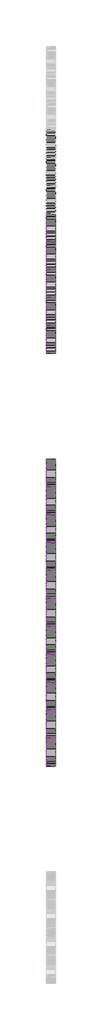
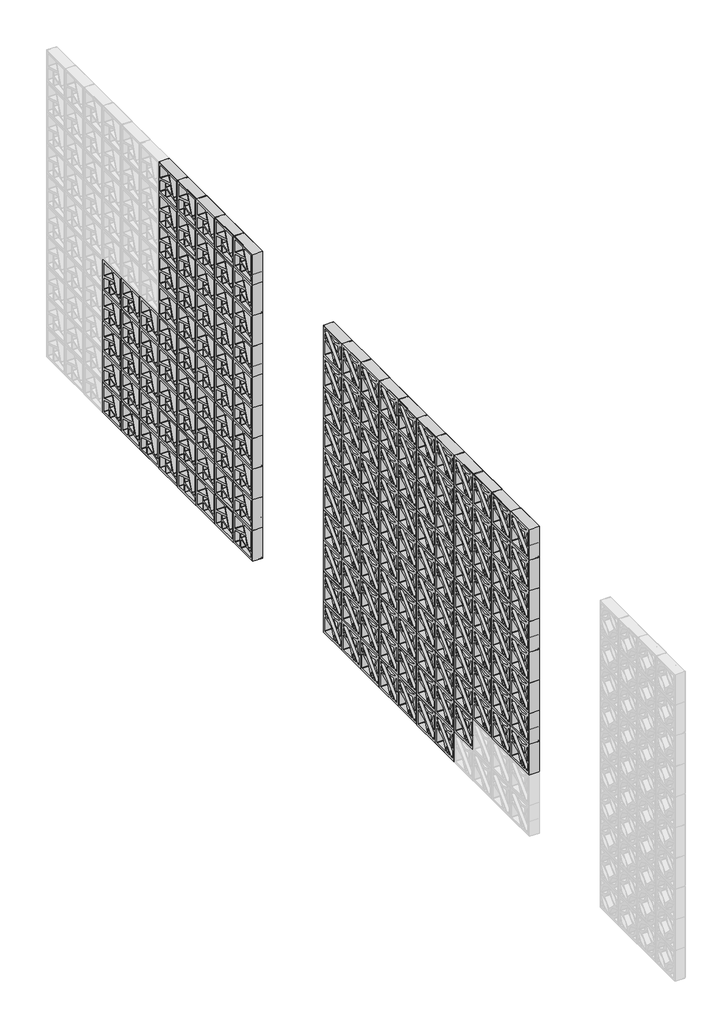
# One storey, part 3 of 8: 168 plates.
"""IFC4 building model written with IfcOpenShell, lengths in millimetres."""

from ifc_helpers import new_model, si_unit, origin, place, context, project, spatial, transform, mapped, element, save
from components import plate_92f93356, plate_8e8c4e3e

model = new_model("IFC4")

# Units and contexts
model_context = context("Model", 3, world=origin())
ifc_project = project(units=[si_unit("LENGTHUNIT", "METRE", prefix="MILLI")], contexts=[model_context])

# Site, building, storey
site = spatial("IfcSite", under=ifc_project)
building = spatial("IfcBuilding", under=site)
storey = spatial("IfcBuildingStorey", under=building, Name="PORTOBELLO - SHOWROOM", Elevation=0.0)

# Plates
placement = place(None, origin())
plate_shape = plate_92f93356(model_context)
element("IfcPlate", 1, ObjectType="PORTOBELLO - STUDIO CRAFT 5 26X26 (PAINEL CORTINA) : STUDIO CRAFT 5", at=placement, inside=storey, context=model_context, shape_type="MappedRepresentation", body=[
    mapped(plate_shape, transform((227956.3824585, 3070.8700164, 0.0), x_axis=(0.0, 1.0, 0.0), y_axis=(-1.0, 0.0, 0.0), z_axis=(0.0, 0.0, 1.0))),
])
element("IfcPlate", 2, ObjectType="PORTOBELLO - STUDIO CRAFT 5 26X26 (PAINEL CORTINA) : STUDIO CRAFT 5", at=placement, inside=storey, context=model_context, shape_type="MappedRepresentation", body=[
    mapped(plate_shape, transform((227956.3824585, 3334.8700164, 0.0), x_axis=(0.0, 1.0, 0.0), y_axis=(-1.0, 0.0, 0.0), z_axis=(0.0, 0.0, 1.0))),
])
element("IfcPlate", 3, ObjectType="PORTOBELLO - STUDIO CRAFT 5 26X26 (PAINEL CORTINA) : STUDIO CRAFT 5", at=placement, inside=storey, context=model_context, shape_type="MappedRepresentation", body=[
    mapped(plate_shape, transform((227956.3824585, 3598.8700164, 0.0), x_axis=(0.0, 1.0, 0.0), y_axis=(-1.0, 0.0, 0.0), z_axis=(0.0, 0.0, 1.0))),
])
element("IfcPlate", 4, ObjectType="PORTOBELLO - STUDIO CRAFT 5 26X26 (PAINEL CORTINA) : STUDIO CRAFT 5", at=placement, inside=storey, context=model_context, shape_type="MappedRepresentation", body=[
    mapped(plate_shape, transform((227956.3824585, 3862.8700164, 0.0), x_axis=(0.0, 1.0, 0.0), y_axis=(-1.0, 0.0, 0.0), z_axis=(0.0, 0.0, 1.0))),
])
element("IfcPlate", 5, ObjectType="PORTOBELLO - STUDIO CRAFT 5 26X26 (PAINEL CORTINA) : STUDIO CRAFT 5", at=placement, inside=storey, context=model_context, shape_type="MappedRepresentation", body=[
    mapped(plate_shape, transform((227956.3824585, 4126.8700164, 0.0), x_axis=(0.0, 1.0, 0.0), y_axis=(-1.0, 0.0, 0.0), z_axis=(0.0, 0.0, 1.0))),
])
element("IfcPlate", 6, ObjectType="PORTOBELLO - STUDIO CRAFT 5 26X26 (PAINEL CORTINA) : STUDIO CRAFT 5", at=placement, inside=storey, context=model_context, shape_type="MappedRepresentation", body=[
    mapped(plate_shape, transform((227956.3824585, 4390.8700164, 0.0), x_axis=(0.0, 1.0, 0.0), y_axis=(-1.0, 0.0, 0.0), z_axis=(0.0, 0.0, 1.0))),
])
element("IfcPlate", 7, ObjectType="PORTOBELLO - STUDIO CRAFT 5 26X26 (PAINEL CORTINA) : STUDIO CRAFT 5", at=placement, inside=storey, context=model_context, shape_type="MappedRepresentation", body=[
    mapped(plate_shape, transform((227956.3824585, 4654.8700164, 0.0), x_axis=(0.0, 1.0, 0.0), y_axis=(-1.0, 0.0, 0.0), z_axis=(0.0, 0.0, 1.0))),
])
element("IfcPlate", 8, ObjectType="PORTOBELLO - STUDIO CRAFT 5 26X26 (PAINEL CORTINA) : STUDIO CRAFT 5", at=placement, inside=storey, context=model_context, shape_type="MappedRepresentation", body=[
    mapped(plate_shape, transform((227956.3824585, 2806.8700164, 264.0), x_axis=(0.0, 1.0, 0.0), y_axis=(-1.0, 0.0, 0.0), z_axis=(0.0, 0.0, 1.0))),
])
element("IfcPlate", 9, ObjectType="PORTOBELLO - STUDIO CRAFT 5 26X26 (PAINEL CORTINA) : STUDIO CRAFT 5", at=placement, inside=storey, context=model_context, shape_type="MappedRepresentation", body=[
    mapped(plate_shape, transform((227956.3824585, 3070.8700164, 264.0), x_axis=(0.0, 1.0, 0.0), y_axis=(-1.0, 0.0, 0.0), z_axis=(0.0, 0.0, 1.0))),
])
element("IfcPlate", 10, ObjectType="PORTOBELLO - STUDIO CRAFT 5 26X26 (PAINEL CORTINA) : STUDIO CRAFT 5", at=placement, inside=storey, context=model_context, shape_type="MappedRepresentation", body=[
    mapped(plate_shape, transform((227956.3824585, 3334.8700164, 264.0), x_axis=(0.0, 1.0, 0.0), y_axis=(-1.0, 0.0, 0.0), z_axis=(0.0, 0.0, 1.0))),
])
element("IfcPlate", 11, ObjectType="PORTOBELLO - STUDIO CRAFT 5 26X26 (PAINEL CORTINA) : STUDIO CRAFT 5", at=placement, inside=storey, context=model_context, shape_type="MappedRepresentation", body=[
    mapped(plate_shape, transform((227956.3824585, 3598.8700164, 264.0), x_axis=(0.0, 1.0, 0.0), y_axis=(-1.0, 0.0, 0.0), z_axis=(0.0, 0.0, 1.0))),
])
element("IfcPlate", 12, ObjectType="PORTOBELLO - STUDIO CRAFT 5 26X26 (PAINEL CORTINA) : STUDIO CRAFT 5", at=placement, inside=storey, context=model_context, shape_type="MappedRepresentation", body=[
    mapped(plate_shape, transform((227956.3824585, 3862.8700164, 264.0), x_axis=(0.0, 1.0, 0.0), y_axis=(-1.0, 0.0, 0.0), z_axis=(0.0, 0.0, 1.0))),
])
element("IfcPlate", 13, ObjectType="PORTOBELLO - STUDIO CRAFT 5 26X26 (PAINEL CORTINA) : STUDIO CRAFT 5", at=placement, inside=storey, context=model_context, shape_type="MappedRepresentation", body=[
    mapped(plate_shape, transform((227956.3824585, 4126.8700164, 264.0), x_axis=(0.0, 1.0, 0.0), y_axis=(-1.0, 0.0, 0.0), z_axis=(0.0, 0.0, 1.0))),
])
element("IfcPlate", 14, ObjectType="PORTOBELLO - STUDIO CRAFT 5 26X26 (PAINEL CORTINA) : STUDIO CRAFT 5", at=placement, inside=storey, context=model_context, shape_type="MappedRepresentation", body=[
    mapped(plate_shape, transform((227956.3824585, 4390.8700164, 264.0), x_axis=(0.0, 1.0, 0.0), y_axis=(-1.0, 0.0, 0.0), z_axis=(0.0, 0.0, 1.0))),
])
element("IfcPlate", 15, ObjectType="PORTOBELLO - STUDIO CRAFT 5 26X26 (PAINEL CORTINA) : STUDIO CRAFT 5", at=placement, inside=storey, context=model_context, shape_type="MappedRepresentation", body=[
    mapped(plate_shape, transform((227956.3824585, 4654.8700164, 264.0), x_axis=(0.0, 1.0, 0.0), y_axis=(-1.0, 0.0, 0.0), z_axis=(0.0, 0.0, 1.0))),
])
element("IfcPlate", 16, ObjectType="PORTOBELLO - STUDIO CRAFT 5 26X26 (PAINEL CORTINA) : STUDIO CRAFT 5", at=placement, inside=storey, context=model_context, shape_type="MappedRepresentation", body=[
    mapped(plate_shape, transform((227956.3824585, 2014.8700163, 528.0), x_axis=(0.0, 1.0, 0.0), y_axis=(-1.0, 0.0, 0.0), z_axis=(0.0, 0.0, 1.0))),
])
element("IfcPlate", 17, ObjectType="PORTOBELLO - STUDIO CRAFT 5 26X26 (PAINEL CORTINA) : STUDIO CRAFT 5", at=placement, inside=storey, context=model_context, shape_type="MappedRepresentation", body=[
    mapped(plate_shape, transform((227956.3824585, 2278.8700164, 528.0), x_axis=(0.0, 1.0, 0.0), y_axis=(-1.0, 0.0, 0.0), z_axis=(0.0, 0.0, 1.0))),
])
element("IfcPlate", 18, ObjectType="PORTOBELLO - STUDIO CRAFT 5 26X26 (PAINEL CORTINA) : STUDIO CRAFT 5", at=placement, inside=storey, context=model_context, shape_type="MappedRepresentation", body=[
    mapped(plate_shape, transform((227956.3824585, 2542.8700164, 528.0), x_axis=(0.0, 1.0, 0.0), y_axis=(-1.0, 0.0, 0.0), z_axis=(0.0, 0.0, 1.0))),
])
element("IfcPlate", 19, ObjectType="PORTOBELLO - STUDIO CRAFT 5 26X26 (PAINEL CORTINA) : STUDIO CRAFT 5", at=placement, inside=storey, context=model_context, shape_type="MappedRepresentation", body=[
    mapped(plate_shape, transform((227956.3824585, 2806.8700164, 528.0), x_axis=(0.0, 1.0, 0.0), y_axis=(-1.0, 0.0, 0.0), z_axis=(0.0, 0.0, 1.0))),
])
element("IfcPlate", 20, ObjectType="PORTOBELLO - STUDIO CRAFT 5 26X26 (PAINEL CORTINA) : STUDIO CRAFT 5", at=placement, inside=storey, context=model_context, shape_type="MappedRepresentation", body=[
    mapped(plate_shape, transform((227956.3824585, 3070.8700164, 528.0), x_axis=(0.0, 1.0, 0.0), y_axis=(-1.0, 0.0, 0.0), z_axis=(0.0, 0.0, 1.0))),
])
element("IfcPlate", 21, ObjectType="PORTOBELLO - STUDIO CRAFT 5 26X26 (PAINEL CORTINA) : STUDIO CRAFT 5", at=placement, inside=storey, context=model_context, shape_type="MappedRepresentation", body=[
    mapped(plate_shape, transform((227956.3824585, 3334.8700164, 528.0), x_axis=(0.0, 1.0, 0.0), y_axis=(-1.0, 0.0, 0.0), z_axis=(0.0, 0.0, 1.0))),
])
element("IfcPlate", 22, ObjectType="PORTOBELLO - STUDIO CRAFT 5 26X26 (PAINEL CORTINA) : STUDIO CRAFT 5", at=placement, inside=storey, context=model_context, shape_type="MappedRepresentation", body=[
    mapped(plate_shape, transform((227956.3824585, 3598.8700164, 528.0), x_axis=(0.0, 1.0, 0.0), y_axis=(-1.0, 0.0, 0.0), z_axis=(0.0, 0.0, 1.0))),
])
element("IfcPlate", 23, ObjectType="PORTOBELLO - STUDIO CRAFT 5 26X26 (PAINEL CORTINA) : STUDIO CRAFT 5", at=placement, inside=storey, context=model_context, shape_type="MappedRepresentation", body=[
    mapped(plate_shape, transform((227956.3824585, 3862.8700164, 528.0), x_axis=(0.0, 1.0, 0.0), y_axis=(-1.0, 0.0, 0.0), z_axis=(0.0, 0.0, 1.0))),
])
element("IfcPlate", 24, ObjectType="PORTOBELLO - STUDIO CRAFT 5 26X26 (PAINEL CORTINA) : STUDIO CRAFT 5", at=placement, inside=storey, context=model_context, shape_type="MappedRepresentation", body=[
    mapped(plate_shape, transform((227956.3824585, 4126.8700164, 528.0), x_axis=(0.0, 1.0, 0.0), y_axis=(-1.0, 0.0, 0.0), z_axis=(0.0, 0.0, 1.0))),
])
element("IfcPlate", 25, ObjectType="PORTOBELLO - STUDIO CRAFT 5 26X26 (PAINEL CORTINA) : STUDIO CRAFT 5", at=placement, inside=storey, context=model_context, shape_type="MappedRepresentation", body=[
    mapped(plate_shape, transform((227956.3824585, 4390.8700164, 528.0), x_axis=(0.0, 1.0, 0.0), y_axis=(-1.0, 0.0, 0.0), z_axis=(0.0, 0.0, 1.0))),
])
element("IfcPlate", 26, ObjectType="PORTOBELLO - STUDIO CRAFT 5 26X26 (PAINEL CORTINA) : STUDIO CRAFT 5", at=placement, inside=storey, context=model_context, shape_type="MappedRepresentation", body=[
    mapped(plate_shape, transform((227956.3824585, 4654.8700164, 528.0), x_axis=(0.0, 1.0, 0.0), y_axis=(-1.0, 0.0, 0.0), z_axis=(0.0, 0.0, 1.0))),
])
element("IfcPlate", 27, ObjectType="PORTOBELLO - STUDIO CRAFT 5 26X26 (PAINEL CORTINA) : STUDIO CRAFT 5", at=placement, inside=storey, context=model_context, shape_type="MappedRepresentation", body=[
    mapped(plate_shape, transform((227956.3824585, 2014.8700163, 792.0), x_axis=(0.0, 1.0, 0.0), y_axis=(-1.0, 0.0, 0.0), z_axis=(0.0, 0.0, 1.0))),
])
element("IfcPlate", 28, ObjectType="PORTOBELLO - STUDIO CRAFT 5 26X26 (PAINEL CORTINA) : STUDIO CRAFT 5", at=placement, inside=storey, context=model_context, shape_type="MappedRepresentation", body=[
    mapped(plate_shape, transform((227956.3824585, 2278.8700164, 792.0), x_axis=(0.0, 1.0, 0.0), y_axis=(-1.0, 0.0, 0.0), z_axis=(0.0, 0.0, 1.0))),
])
element("IfcPlate", 29, ObjectType="PORTOBELLO - STUDIO CRAFT 5 26X26 (PAINEL CORTINA) : STUDIO CRAFT 5", at=placement, inside=storey, context=model_context, shape_type="MappedRepresentation", body=[
    mapped(plate_shape, transform((227956.3824585, 2542.8700164, 792.0), x_axis=(0.0, 1.0, 0.0), y_axis=(-1.0, 0.0, 0.0), z_axis=(0.0, 0.0, 1.0))),
])
element("IfcPlate", 30, ObjectType="PORTOBELLO - STUDIO CRAFT 5 26X26 (PAINEL CORTINA) : STUDIO CRAFT 5", at=placement, inside=storey, context=model_context, shape_type="MappedRepresentation", body=[
    mapped(plate_shape, transform((227956.3824585, 2806.8700164, 792.0), x_axis=(0.0, 1.0, 0.0), y_axis=(-1.0, 0.0, 0.0), z_axis=(0.0, 0.0, 1.0))),
])
element("IfcPlate", 31, ObjectType="PORTOBELLO - STUDIO CRAFT 5 26X26 (PAINEL CORTINA) : STUDIO CRAFT 5", at=placement, inside=storey, context=model_context, shape_type="MappedRepresentation", body=[
    mapped(plate_shape, transform((227956.3824585, 3070.8700164, 792.0), x_axis=(0.0, 1.0, 0.0), y_axis=(-1.0, 0.0, 0.0), z_axis=(0.0, 0.0, 1.0))),
])
element("IfcPlate", 32, ObjectType="PORTOBELLO - STUDIO CRAFT 5 26X26 (PAINEL CORTINA) : STUDIO CRAFT 5", at=placement, inside=storey, context=model_context, shape_type="MappedRepresentation", body=[
    mapped(plate_shape, transform((227956.3824585, 3334.8700164, 792.0), x_axis=(0.0, 1.0, 0.0), y_axis=(-1.0, 0.0, 0.0), z_axis=(0.0, 0.0, 1.0))),
])
element("IfcPlate", 33, ObjectType="PORTOBELLO - STUDIO CRAFT 5 26X26 (PAINEL CORTINA) : STUDIO CRAFT 5", at=placement, inside=storey, context=model_context, shape_type="MappedRepresentation", body=[
    mapped(plate_shape, transform((227956.3824585, 3598.8700164, 792.0), x_axis=(0.0, 1.0, 0.0), y_axis=(-1.0, 0.0, 0.0), z_axis=(0.0, 0.0, 1.0))),
])
element("IfcPlate", 34, ObjectType="PORTOBELLO - STUDIO CRAFT 5 26X26 (PAINEL CORTINA) : STUDIO CRAFT 5", at=placement, inside=storey, context=model_context, shape_type="MappedRepresentation", body=[
    mapped(plate_shape, transform((227956.3824585, 3862.8700164, 792.0), x_axis=(0.0, 1.0, 0.0), y_axis=(-1.0, 0.0, 0.0), z_axis=(0.0, 0.0, 1.0))),
])
element("IfcPlate", 35, ObjectType="PORTOBELLO - STUDIO CRAFT 5 26X26 (PAINEL CORTINA) : STUDIO CRAFT 5", at=placement, inside=storey, context=model_context, shape_type="MappedRepresentation", body=[
    mapped(plate_shape, transform((227956.3824585, 4126.8700164, 792.0), x_axis=(0.0, 1.0, 0.0), y_axis=(-1.0, 0.0, 0.0), z_axis=(0.0, 0.0, 1.0))),
])
element("IfcPlate", 36, ObjectType="PORTOBELLO - STUDIO CRAFT 5 26X26 (PAINEL CORTINA) : STUDIO CRAFT 5", at=placement, inside=storey, context=model_context, shape_type="MappedRepresentation", body=[
    mapped(plate_shape, transform((227956.3824585, 4390.8700164, 792.0), x_axis=(0.0, 1.0, 0.0), y_axis=(-1.0, 0.0, 0.0), z_axis=(0.0, 0.0, 1.0))),
])
element("IfcPlate", 37, ObjectType="PORTOBELLO - STUDIO CRAFT 5 26X26 (PAINEL CORTINA) : STUDIO CRAFT 5", at=placement, inside=storey, context=model_context, shape_type="MappedRepresentation", body=[
    mapped(plate_shape, transform((227956.3824585, 4654.8700164, 792.0), x_axis=(0.0, 1.0, 0.0), y_axis=(-1.0, 0.0, 0.0), z_axis=(0.0, 0.0, 1.0))),
])
element("IfcPlate", 38, ObjectType="PORTOBELLO - STUDIO CRAFT 5 26X26 (PAINEL CORTINA) : STUDIO CRAFT 5", at=placement, inside=storey, context=model_context, shape_type="MappedRepresentation", body=[
    mapped(plate_shape, transform((227956.3824585, 2014.8700163, 1056.0), x_axis=(0.0, 1.0, 0.0), y_axis=(-1.0, 0.0, 0.0), z_axis=(0.0, 0.0, 1.0))),
])
element("IfcPlate", 39, ObjectType="PORTOBELLO - STUDIO CRAFT 5 26X26 (PAINEL CORTINA) : STUDIO CRAFT 5", at=placement, inside=storey, context=model_context, shape_type="MappedRepresentation", body=[
    mapped(plate_shape, transform((227956.3824585, 2278.8700164, 1056.0), x_axis=(0.0, 1.0, 0.0), y_axis=(-1.0, 0.0, 0.0), z_axis=(0.0, 0.0, 1.0))),
])
element("IfcPlate", 40, ObjectType="PORTOBELLO - STUDIO CRAFT 5 26X26 (PAINEL CORTINA) : STUDIO CRAFT 5", at=placement, inside=storey, context=model_context, shape_type="MappedRepresentation", body=[
    mapped(plate_shape, transform((227956.3824585, 2542.8700164, 1056.0), x_axis=(0.0, 1.0, 0.0), y_axis=(-1.0, 0.0, 0.0), z_axis=(0.0, 0.0, 1.0))),
])
element("IfcPlate", 41, ObjectType="PORTOBELLO - STUDIO CRAFT 5 26X26 (PAINEL CORTINA) : STUDIO CRAFT 5", at=placement, inside=storey, context=model_context, shape_type="MappedRepresentation", body=[
    mapped(plate_shape, transform((227956.3824585, 2806.8700164, 1056.0), x_axis=(0.0, 1.0, 0.0), y_axis=(-1.0, 0.0, 0.0), z_axis=(0.0, 0.0, 1.0))),
])
element("IfcPlate", 42, ObjectType="PORTOBELLO - STUDIO CRAFT 5 26X26 (PAINEL CORTINA) : STUDIO CRAFT 5", at=placement, inside=storey, context=model_context, shape_type="MappedRepresentation", body=[
    mapped(plate_shape, transform((227956.3824585, 3070.8700164, 1056.0), x_axis=(0.0, 1.0, 0.0), y_axis=(-1.0, 0.0, 0.0), z_axis=(0.0, 0.0, 1.0))),
])
element("IfcPlate", 43, ObjectType="PORTOBELLO - STUDIO CRAFT 5 26X26 (PAINEL CORTINA) : STUDIO CRAFT 5", at=placement, inside=storey, context=model_context, shape_type="MappedRepresentation", body=[
    mapped(plate_shape, transform((227956.3824585, 3334.8700164, 1056.0), x_axis=(0.0, 1.0, 0.0), y_axis=(-1.0, 0.0, 0.0), z_axis=(0.0, 0.0, 1.0))),
])
element("IfcPlate", 44, ObjectType="PORTOBELLO - STUDIO CRAFT 5 26X26 (PAINEL CORTINA) : STUDIO CRAFT 5", at=placement, inside=storey, context=model_context, shape_type="MappedRepresentation", body=[
    mapped(plate_shape, transform((227956.3824585, 3598.8700164, 1056.0), x_axis=(0.0, 1.0, 0.0), y_axis=(-1.0, 0.0, 0.0), z_axis=(0.0, 0.0, 1.0))),
])
element("IfcPlate", 45, ObjectType="PORTOBELLO - STUDIO CRAFT 5 26X26 (PAINEL CORTINA) : STUDIO CRAFT 5", at=placement, inside=storey, context=model_context, shape_type="MappedRepresentation", body=[
    mapped(plate_shape, transform((227956.3824585, 3862.8700164, 1056.0), x_axis=(0.0, 1.0, 0.0), y_axis=(-1.0, 0.0, 0.0), z_axis=(0.0, 0.0, 1.0))),
])
element("IfcPlate", 46, ObjectType="PORTOBELLO - STUDIO CRAFT 5 26X26 (PAINEL CORTINA) : STUDIO CRAFT 5", at=placement, inside=storey, context=model_context, shape_type="MappedRepresentation", body=[
    mapped(plate_shape, transform((227956.3824585, 4126.8700164, 1056.0), x_axis=(0.0, 1.0, 0.0), y_axis=(-1.0, 0.0, 0.0), z_axis=(0.0, 0.0, 1.0))),
])
element("IfcPlate", 47, ObjectType="PORTOBELLO - STUDIO CRAFT 5 26X26 (PAINEL CORTINA) : STUDIO CRAFT 5", at=placement, inside=storey, context=model_context, shape_type="MappedRepresentation", body=[
    mapped(plate_shape, transform((227956.3824585, 4390.8700164, 1056.0), x_axis=(0.0, 1.0, 0.0), y_axis=(-1.0, 0.0, 0.0), z_axis=(0.0, 0.0, 1.0))),
])
element("IfcPlate", 48, ObjectType="PORTOBELLO - STUDIO CRAFT 5 26X26 (PAINEL CORTINA) : STUDIO CRAFT 5", at=placement, inside=storey, context=model_context, shape_type="MappedRepresentation", body=[
    mapped(plate_shape, transform((227956.3824585, 4654.8700164, 1056.0), x_axis=(0.0, 1.0, 0.0), y_axis=(-1.0, 0.0, 0.0), z_axis=(0.0, 0.0, 1.0))),
])
element("IfcPlate", 49, ObjectType="PORTOBELLO - STUDIO CRAFT 5 26X26 (PAINEL CORTINA) : STUDIO CRAFT 5", at=placement, inside=storey, context=model_context, shape_type="MappedRepresentation", body=[
    mapped(plate_shape, transform((227956.3824585, 2014.8700163, 1320.0), x_axis=(0.0, 1.0, 0.0), y_axis=(-1.0, 0.0, 0.0), z_axis=(0.0, 0.0, 1.0))),
])
element("IfcPlate", 50, ObjectType="PORTOBELLO - STUDIO CRAFT 5 26X26 (PAINEL CORTINA) : STUDIO CRAFT 5", at=placement, inside=storey, context=model_context, shape_type="MappedRepresentation", body=[
    mapped(plate_shape, transform((227956.3824585, 2278.8700164, 1320.0), x_axis=(0.0, 1.0, 0.0), y_axis=(-1.0, 0.0, 0.0), z_axis=(0.0, 0.0, 1.0))),
])
element("IfcPlate", 51, ObjectType="PORTOBELLO - STUDIO CRAFT 5 26X26 (PAINEL CORTINA) : STUDIO CRAFT 5", at=placement, inside=storey, context=model_context, shape_type="MappedRepresentation", body=[
    mapped(plate_shape, transform((227956.3824585, 2542.8700164, 1320.0), x_axis=(0.0, 1.0, 0.0), y_axis=(-1.0, 0.0, 0.0), z_axis=(0.0, 0.0, 1.0))),
])
element("IfcPlate", 52, ObjectType="PORTOBELLO - STUDIO CRAFT 5 26X26 (PAINEL CORTINA) : STUDIO CRAFT 5", at=placement, inside=storey, context=model_context, shape_type="MappedRepresentation", body=[
    mapped(plate_shape, transform((227956.3824585, 2806.8700164, 1320.0), x_axis=(0.0, 1.0, 0.0), y_axis=(-1.0, 0.0, 0.0), z_axis=(0.0, 0.0, 1.0))),
])
element("IfcPlate", 53, ObjectType="PORTOBELLO - STUDIO CRAFT 5 26X26 (PAINEL CORTINA) : STUDIO CRAFT 5", at=placement, inside=storey, context=model_context, shape_type="MappedRepresentation", body=[
    mapped(plate_shape, transform((227956.3824585, 3070.8700164, 1320.0), x_axis=(0.0, 1.0, 0.0), y_axis=(-1.0, 0.0, 0.0), z_axis=(0.0, 0.0, 1.0))),
])
element("IfcPlate", 54, ObjectType="PORTOBELLO - STUDIO CRAFT 5 26X26 (PAINEL CORTINA) : STUDIO CRAFT 5", at=placement, inside=storey, context=model_context, shape_type="MappedRepresentation", body=[
    mapped(plate_shape, transform((227956.3824585, 3334.8700164, 1320.0), x_axis=(0.0, 1.0, 0.0), y_axis=(-1.0, 0.0, 0.0), z_axis=(0.0, 0.0, 1.0))),
])
element("IfcPlate", 55, ObjectType="PORTOBELLO - STUDIO CRAFT 5 26X26 (PAINEL CORTINA) : STUDIO CRAFT 5", at=placement, inside=storey, context=model_context, shape_type="MappedRepresentation", body=[
    mapped(plate_shape, transform((227956.3824585, 3598.8700164, 1320.0), x_axis=(0.0, 1.0, 0.0), y_axis=(-1.0, 0.0, 0.0), z_axis=(0.0, 0.0, 1.0))),
])
element("IfcPlate", 56, ObjectType="PORTOBELLO - STUDIO CRAFT 5 26X26 (PAINEL CORTINA) : STUDIO CRAFT 5", at=placement, inside=storey, context=model_context, shape_type="MappedRepresentation", body=[
    mapped(plate_shape, transform((227956.3824585, 3862.8700164, 1320.0), x_axis=(0.0, 1.0, 0.0), y_axis=(-1.0, 0.0, 0.0), z_axis=(0.0, 0.0, 1.0))),
])
element("IfcPlate", 57, ObjectType="PORTOBELLO - STUDIO CRAFT 5 26X26 (PAINEL CORTINA) : STUDIO CRAFT 5", at=placement, inside=storey, context=model_context, shape_type="MappedRepresentation", body=[
    mapped(plate_shape, transform((227956.3824585, 4126.8700164, 1320.0), x_axis=(0.0, 1.0, 0.0), y_axis=(-1.0, 0.0, 0.0), z_axis=(0.0, 0.0, 1.0))),
])
element("IfcPlate", 58, ObjectType="PORTOBELLO - STUDIO CRAFT 5 26X26 (PAINEL CORTINA) : STUDIO CRAFT 5", at=placement, inside=storey, context=model_context, shape_type="MappedRepresentation", body=[
    mapped(plate_shape, transform((227956.3824585, 4390.8700164, 1320.0), x_axis=(0.0, 1.0, 0.0), y_axis=(-1.0, 0.0, 0.0), z_axis=(0.0, 0.0, 1.0))),
])
element("IfcPlate", 59, ObjectType="PORTOBELLO - STUDIO CRAFT 5 26X26 (PAINEL CORTINA) : STUDIO CRAFT 5", at=placement, inside=storey, context=model_context, shape_type="MappedRepresentation", body=[
    mapped(plate_shape, transform((227956.3824585, 4654.8700164, 1320.0), x_axis=(0.0, 1.0, 0.0), y_axis=(-1.0, 0.0, 0.0), z_axis=(0.0, 0.0, 1.0))),
])
element("IfcPlate", 60, ObjectType="PORTOBELLO - STUDIO CRAFT 5 26X26 (PAINEL CORTINA) : STUDIO CRAFT 5", at=placement, inside=storey, context=model_context, shape_type="MappedRepresentation", body=[
    mapped(plate_shape, transform((227956.3824585, 2014.8700163, 1584.0), x_axis=(0.0, 1.0, 0.0), y_axis=(-1.0, 0.0, 0.0), z_axis=(0.0, 0.0, 1.0))),
])
element("IfcPlate", 61, ObjectType="PORTOBELLO - STUDIO CRAFT 5 26X26 (PAINEL CORTINA) : STUDIO CRAFT 5", at=placement, inside=storey, context=model_context, shape_type="MappedRepresentation", body=[
    mapped(plate_shape, transform((227956.3824585, 2278.8700164, 1584.0), x_axis=(0.0, 1.0, 0.0), y_axis=(-1.0, 0.0, 0.0), z_axis=(0.0, 0.0, 1.0))),
])
element("IfcPlate", 62, ObjectType="PORTOBELLO - STUDIO CRAFT 5 26X26 (PAINEL CORTINA) : STUDIO CRAFT 5", at=placement, inside=storey, context=model_context, shape_type="MappedRepresentation", body=[
    mapped(plate_shape, transform((227956.3824585, 2542.8700164, 1584.0), x_axis=(0.0, 1.0, 0.0), y_axis=(-1.0, 0.0, 0.0), z_axis=(0.0, 0.0, 1.0))),
])
element("IfcPlate", 63, ObjectType="PORTOBELLO - STUDIO CRAFT 5 26X26 (PAINEL CORTINA) : STUDIO CRAFT 5", at=placement, inside=storey, context=model_context, shape_type="MappedRepresentation", body=[
    mapped(plate_shape, transform((227956.3824585, 2806.8700164, 1584.0), x_axis=(0.0, 1.0, 0.0), y_axis=(-1.0, 0.0, 0.0), z_axis=(0.0, 0.0, 1.0))),
])
element("IfcPlate", 64, ObjectType="PORTOBELLO - STUDIO CRAFT 5 26X26 (PAINEL CORTINA) : STUDIO CRAFT 5", at=placement, inside=storey, context=model_context, shape_type="MappedRepresentation", body=[
    mapped(plate_shape, transform((227956.3824585, 3070.8700164, 1584.0), x_axis=(0.0, 1.0, 0.0), y_axis=(-1.0, 0.0, 0.0), z_axis=(0.0, 0.0, 1.0))),
])
element("IfcPlate", 65, ObjectType="PORTOBELLO - STUDIO CRAFT 5 26X26 (PAINEL CORTINA) : STUDIO CRAFT 5", at=placement, inside=storey, context=model_context, shape_type="MappedRepresentation", body=[
    mapped(plate_shape, transform((227956.3824585, 3334.8700164, 1584.0), x_axis=(0.0, 1.0, 0.0), y_axis=(-1.0, 0.0, 0.0), z_axis=(0.0, 0.0, 1.0))),
])
element("IfcPlate", 66, ObjectType="PORTOBELLO - STUDIO CRAFT 5 26X26 (PAINEL CORTINA) : STUDIO CRAFT 5", at=placement, inside=storey, context=model_context, shape_type="MappedRepresentation", body=[
    mapped(plate_shape, transform((227956.3824585, 3598.8700164, 1584.0), x_axis=(0.0, 1.0, 0.0), y_axis=(-1.0, 0.0, 0.0), z_axis=(0.0, 0.0, 1.0))),
])
element("IfcPlate", 67, ObjectType="PORTOBELLO - STUDIO CRAFT 5 26X26 (PAINEL CORTINA) : STUDIO CRAFT 5", at=placement, inside=storey, context=model_context, shape_type="MappedRepresentation", body=[
    mapped(plate_shape, transform((227956.3824585, 3862.8700164, 1584.0), x_axis=(0.0, 1.0, 0.0), y_axis=(-1.0, 0.0, 0.0), z_axis=(0.0, 0.0, 1.0))),
])
element("IfcPlate", 68, ObjectType="PORTOBELLO - STUDIO CRAFT 5 26X26 (PAINEL CORTINA) : STUDIO CRAFT 5", at=placement, inside=storey, context=model_context, shape_type="MappedRepresentation", body=[
    mapped(plate_shape, transform((227956.3824585, 4126.8700164, 1584.0), x_axis=(0.0, 1.0, 0.0), y_axis=(-1.0, 0.0, 0.0), z_axis=(0.0, 0.0, 1.0))),
])
element("IfcPlate", 69, ObjectType="PORTOBELLO - STUDIO CRAFT 5 26X26 (PAINEL CORTINA) : STUDIO CRAFT 5", at=placement, inside=storey, context=model_context, shape_type="MappedRepresentation", body=[
    mapped(plate_shape, transform((227956.3824585, 4390.8700164, 1584.0), x_axis=(0.0, 1.0, 0.0), y_axis=(-1.0, 0.0, 0.0), z_axis=(0.0, 0.0, 1.0))),
])
element("IfcPlate", 70, ObjectType="PORTOBELLO - STUDIO CRAFT 5 26X26 (PAINEL CORTINA) : STUDIO CRAFT 5", at=placement, inside=storey, context=model_context, shape_type="MappedRepresentation", body=[
    mapped(plate_shape, transform((227956.3824585, 4654.8700164, 1584.0), x_axis=(0.0, 1.0, 0.0), y_axis=(-1.0, 0.0, 0.0), z_axis=(0.0, 0.0, 1.0))),
])
element("IfcPlate", 71, ObjectType="PORTOBELLO - STUDIO CRAFT 5 26X26 (PAINEL CORTINA) : STUDIO CRAFT 5", at=placement, inside=storey, context=model_context, shape_type="MappedRepresentation", body=[
    mapped(plate_shape, transform((227956.3824585, 2014.8700163, 1848.0), x_axis=(0.0, 1.0, 0.0), y_axis=(-1.0, 0.0, 0.0), z_axis=(0.0, 0.0, 1.0))),
])
element("IfcPlate", 72, ObjectType="PORTOBELLO - STUDIO CRAFT 5 26X26 (PAINEL CORTINA) : STUDIO CRAFT 5", at=placement, inside=storey, context=model_context, shape_type="MappedRepresentation", body=[
    mapped(plate_shape, transform((227956.3824585, 2278.8700164, 1848.0), x_axis=(0.0, 1.0, 0.0), y_axis=(-1.0, 0.0, 0.0), z_axis=(0.0, 0.0, 1.0))),
])
element("IfcPlate", 73, ObjectType="PORTOBELLO - STUDIO CRAFT 5 26X26 (PAINEL CORTINA) : STUDIO CRAFT 5", at=placement, inside=storey, context=model_context, shape_type="MappedRepresentation", body=[
    mapped(plate_shape, transform((227956.3824585, 2542.8700164, 1848.0), x_axis=(0.0, 1.0, 0.0), y_axis=(-1.0, 0.0, 0.0), z_axis=(0.0, 0.0, 1.0))),
])
element("IfcPlate", 74, ObjectType="PORTOBELLO - STUDIO CRAFT 5 26X26 (PAINEL CORTINA) : STUDIO CRAFT 5", at=placement, inside=storey, context=model_context, shape_type="MappedRepresentation", body=[
    mapped(plate_shape, transform((227956.3824585, 2806.8700164, 1848.0), x_axis=(0.0, 1.0, 0.0), y_axis=(-1.0, 0.0, 0.0), z_axis=(0.0, 0.0, 1.0))),
])
element("IfcPlate", 75, ObjectType="PORTOBELLO - STUDIO CRAFT 5 26X26 (PAINEL CORTINA) : STUDIO CRAFT 5", at=placement, inside=storey, context=model_context, shape_type="MappedRepresentation", body=[
    mapped(plate_shape, transform((227956.3824585, 3070.8700164, 1848.0), x_axis=(0.0, 1.0, 0.0), y_axis=(-1.0, 0.0, 0.0), z_axis=(0.0, 0.0, 1.0))),
])
element("IfcPlate", 76, ObjectType="PORTOBELLO - STUDIO CRAFT 5 26X26 (PAINEL CORTINA) : STUDIO CRAFT 5", at=placement, inside=storey, context=model_context, shape_type="MappedRepresentation", body=[
    mapped(plate_shape, transform((227956.3824585, 3334.8700164, 1848.0), x_axis=(0.0, 1.0, 0.0), y_axis=(-1.0, 0.0, 0.0), z_axis=(0.0, 0.0, 1.0))),
])
element("IfcPlate", 77, ObjectType="PORTOBELLO - STUDIO CRAFT 5 26X26 (PAINEL CORTINA) : STUDIO CRAFT 5", at=placement, inside=storey, context=model_context, shape_type="MappedRepresentation", body=[
    mapped(plate_shape, transform((227956.3824585, 3598.8700164, 1848.0), x_axis=(0.0, 1.0, 0.0), y_axis=(-1.0, 0.0, 0.0), z_axis=(0.0, 0.0, 1.0))),
])
element("IfcPlate", 78, ObjectType="PORTOBELLO - STUDIO CRAFT 5 26X26 (PAINEL CORTINA) : STUDIO CRAFT 5", at=placement, inside=storey, context=model_context, shape_type="MappedRepresentation", body=[
    mapped(plate_shape, transform((227956.3824585, 3862.8700164, 1848.0), x_axis=(0.0, 1.0, 0.0), y_axis=(-1.0, 0.0, 0.0), z_axis=(0.0, 0.0, 1.0))),
])
element("IfcPlate", 79, ObjectType="PORTOBELLO - STUDIO CRAFT 5 26X26 (PAINEL CORTINA) : STUDIO CRAFT 5", at=placement, inside=storey, context=model_context, shape_type="MappedRepresentation", body=[
    mapped(plate_shape, transform((227956.3824585, 4126.8700164, 1848.0), x_axis=(0.0, 1.0, 0.0), y_axis=(-1.0, 0.0, 0.0), z_axis=(0.0, 0.0, 1.0))),
])
element("IfcPlate", 80, ObjectType="PORTOBELLO - STUDIO CRAFT 5 26X26 (PAINEL CORTINA) : STUDIO CRAFT 5", at=placement, inside=storey, context=model_context, shape_type="MappedRepresentation", body=[
    mapped(plate_shape, transform((227956.3824585, 4390.8700164, 1848.0), x_axis=(0.0, 1.0, 0.0), y_axis=(-1.0, 0.0, 0.0), z_axis=(0.0, 0.0, 1.0))),
])
element("IfcPlate", 81, ObjectType="PORTOBELLO - STUDIO CRAFT 5 26X26 (PAINEL CORTINA) : STUDIO CRAFT 5", at=placement, inside=storey, context=model_context, shape_type="MappedRepresentation", body=[
    mapped(plate_shape, transform((227956.3824585, 4654.8700164, 1848.0), x_axis=(0.0, 1.0, 0.0), y_axis=(-1.0, 0.0, 0.0), z_axis=(0.0, 0.0, 1.0))),
])
element("IfcPlate", 82, ObjectType="PORTOBELLO - STUDIO CRAFT 5 26X26 (PAINEL CORTINA) : STUDIO CRAFT 5", at=placement, inside=storey, context=model_context, shape_type="MappedRepresentation", body=[
    mapped(plate_shape, transform((227956.3824585, 2014.8700163, 2112.0), x_axis=(0.0, 1.0, 0.0), y_axis=(-1.0, 0.0, 0.0), z_axis=(0.0, 0.0, 1.0))),
])
element("IfcPlate", 83, ObjectType="PORTOBELLO - STUDIO CRAFT 5 26X26 (PAINEL CORTINA) : STUDIO CRAFT 5", at=placement, inside=storey, context=model_context, shape_type="MappedRepresentation", body=[
    mapped(plate_shape, transform((227956.3824585, 2278.8700164, 2112.0), x_axis=(0.0, 1.0, 0.0), y_axis=(-1.0, 0.0, 0.0), z_axis=(0.0, 0.0, 1.0))),
])
element("IfcPlate", 84, ObjectType="PORTOBELLO - STUDIO CRAFT 5 26X26 (PAINEL CORTINA) : STUDIO CRAFT 5", at=placement, inside=storey, context=model_context, shape_type="MappedRepresentation", body=[
    mapped(plate_shape, transform((227956.3824585, 2542.8700164, 2112.0), x_axis=(0.0, 1.0, 0.0), y_axis=(-1.0, 0.0, 0.0), z_axis=(0.0, 0.0, 1.0))),
])
element("IfcPlate", 85, ObjectType="PORTOBELLO - STUDIO CRAFT 5 26X26 (PAINEL CORTINA) : STUDIO CRAFT 5", at=placement, inside=storey, context=model_context, shape_type="MappedRepresentation", body=[
    mapped(plate_shape, transform((227956.3824585, 2806.8700164, 2112.0), x_axis=(0.0, 1.0, 0.0), y_axis=(-1.0, 0.0, 0.0), z_axis=(0.0, 0.0, 1.0))),
])
element("IfcPlate", 86, ObjectType="PORTOBELLO - STUDIO CRAFT 5 26X26 (PAINEL CORTINA) : STUDIO CRAFT 5", at=placement, inside=storey, context=model_context, shape_type="MappedRepresentation", body=[
    mapped(plate_shape, transform((227956.3824585, 3070.8700164, 2112.0), x_axis=(0.0, 1.0, 0.0), y_axis=(-1.0, 0.0, 0.0), z_axis=(0.0, 0.0, 1.0))),
])
element("IfcPlate", 87, ObjectType="PORTOBELLO - STUDIO CRAFT 5 26X26 (PAINEL CORTINA) : STUDIO CRAFT 5", at=placement, inside=storey, context=model_context, shape_type="MappedRepresentation", body=[
    mapped(plate_shape, transform((227956.3824585, 3334.8700164, 2112.0), x_axis=(0.0, 1.0, 0.0), y_axis=(-1.0, 0.0, 0.0), z_axis=(0.0, 0.0, 1.0))),
])
element("IfcPlate", 88, ObjectType="PORTOBELLO - STUDIO CRAFT 5 26X26 (PAINEL CORTINA) : STUDIO CRAFT 5", at=placement, inside=storey, context=model_context, shape_type="MappedRepresentation", body=[
    mapped(plate_shape, transform((227956.3824585, 3598.8700164, 2112.0), x_axis=(0.0, 1.0, 0.0), y_axis=(-1.0, 0.0, 0.0), z_axis=(0.0, 0.0, 1.0))),
])
element("IfcPlate", 89, ObjectType="PORTOBELLO - STUDIO CRAFT 5 26X26 (PAINEL CORTINA) : STUDIO CRAFT 5", at=placement, inside=storey, context=model_context, shape_type="MappedRepresentation", body=[
    mapped(plate_shape, transform((227956.3824585, 3862.8700164, 2112.0), x_axis=(0.0, 1.0, 0.0), y_axis=(-1.0, 0.0, 0.0), z_axis=(0.0, 0.0, 1.0))),
])
element("IfcPlate", 90, ObjectType="PORTOBELLO - STUDIO CRAFT 5 26X26 (PAINEL CORTINA) : STUDIO CRAFT 5", at=placement, inside=storey, context=model_context, shape_type="MappedRepresentation", body=[
    mapped(plate_shape, transform((227956.3824585, 4126.8700164, 2112.0), x_axis=(0.0, 1.0, 0.0), y_axis=(-1.0, 0.0, 0.0), z_axis=(0.0, 0.0, 1.0))),
])
element("IfcPlate", 91, ObjectType="PORTOBELLO - STUDIO CRAFT 5 26X26 (PAINEL CORTINA) : STUDIO CRAFT 5", at=placement, inside=storey, context=model_context, shape_type="MappedRepresentation", body=[
    mapped(plate_shape, transform((227956.3824585, 4390.8700164, 2112.0), x_axis=(0.0, 1.0, 0.0), y_axis=(-1.0, 0.0, 0.0), z_axis=(0.0, 0.0, 1.0))),
])
element("IfcPlate", 92, ObjectType="PORTOBELLO - STUDIO CRAFT 5 26X26 (PAINEL CORTINA) : STUDIO CRAFT 5", at=placement, inside=storey, context=model_context, shape_type="MappedRepresentation", body=[
    mapped(plate_shape, transform((227956.3824585, 4654.8700164, 2112.0), x_axis=(0.0, 1.0, 0.0), y_axis=(-1.0, 0.0, 0.0), z_axis=(0.0, 0.0, 1.0))),
])
element("IfcPlate", 93, ObjectType="PORTOBELLO - STUDIO CRAFT 5 26X26 (PAINEL CORTINA) : STUDIO CRAFT 5", at=placement, inside=storey, context=model_context, shape_type="MappedRepresentation", body=[
    mapped(plate_shape, transform((227956.3824585, 2014.8700163, 2376.0), x_axis=(0.0, 1.0, 0.0), y_axis=(-1.0, 0.0, 0.0), z_axis=(0.0, 0.0, 1.0))),
])
element("IfcPlate", 94, ObjectType="PORTOBELLO - STUDIO CRAFT 5 26X26 (PAINEL CORTINA) : STUDIO CRAFT 5", at=placement, inside=storey, context=model_context, shape_type="MappedRepresentation", body=[
    mapped(plate_shape, transform((227956.3824585, 2278.8700164, 2376.0), x_axis=(0.0, 1.0, 0.0), y_axis=(-1.0, 0.0, 0.0), z_axis=(0.0, 0.0, 1.0))),
])
element("IfcPlate", 95, ObjectType="PORTOBELLO - STUDIO CRAFT 5 26X26 (PAINEL CORTINA) : STUDIO CRAFT 5", at=placement, inside=storey, context=model_context, shape_type="MappedRepresentation", body=[
    mapped(plate_shape, transform((227956.3824585, 2542.8700164, 2376.0), x_axis=(0.0, 1.0, 0.0), y_axis=(-1.0, 0.0, 0.0), z_axis=(0.0, 0.0, 1.0))),
])
element("IfcPlate", 96, ObjectType="PORTOBELLO - STUDIO CRAFT 5 26X26 (PAINEL CORTINA) : STUDIO CRAFT 5", at=placement, inside=storey, context=model_context, shape_type="MappedRepresentation", body=[
    mapped(plate_shape, transform((227956.3824585, 2806.8700164, 2376.0), x_axis=(0.0, 1.0, 0.0), y_axis=(-1.0, 0.0, 0.0), z_axis=(0.0, 0.0, 1.0))),
])
element("IfcPlate", 97, ObjectType="PORTOBELLO - STUDIO CRAFT 5 26X26 (PAINEL CORTINA) : STUDIO CRAFT 5", at=placement, inside=storey, context=model_context, shape_type="MappedRepresentation", body=[
    mapped(plate_shape, transform((227956.3824585, 3070.8700164, 2376.0), x_axis=(0.0, 1.0, 0.0), y_axis=(-1.0, 0.0, 0.0), z_axis=(0.0, 0.0, 1.0))),
])
element("IfcPlate", 98, ObjectType="PORTOBELLO - STUDIO CRAFT 5 26X26 (PAINEL CORTINA) : STUDIO CRAFT 5", at=placement, inside=storey, context=model_context, shape_type="MappedRepresentation", body=[
    mapped(plate_shape, transform((227956.3824585, 3334.8700164, 2376.0), x_axis=(0.0, 1.0, 0.0), y_axis=(-1.0, 0.0, 0.0), z_axis=(0.0, 0.0, 1.0))),
])
element("IfcPlate", 99, ObjectType="PORTOBELLO - STUDIO CRAFT 5 26X26 (PAINEL CORTINA) : STUDIO CRAFT 5", at=placement, inside=storey, context=model_context, shape_type="MappedRepresentation", body=[
    mapped(plate_shape, transform((227956.3824585, 3598.8700164, 2376.0), x_axis=(0.0, 1.0, 0.0), y_axis=(-1.0, 0.0, 0.0), z_axis=(0.0, 0.0, 1.0))),
])
element("IfcPlate", 100, ObjectType="PORTOBELLO - STUDIO CRAFT 5 26X26 (PAINEL CORTINA) : STUDIO CRAFT 5", at=placement, inside=storey, context=model_context, shape_type="MappedRepresentation", body=[
    mapped(plate_shape, transform((227956.3824585, 3862.8700164, 2376.0), x_axis=(0.0, 1.0, 0.0), y_axis=(-1.0, 0.0, 0.0), z_axis=(0.0, 0.0, 1.0))),
])
element("IfcPlate", 101, ObjectType="PORTOBELLO - STUDIO CRAFT 5 26X26 (PAINEL CORTINA) : STUDIO CRAFT 5", at=placement, inside=storey, context=model_context, shape_type="MappedRepresentation", body=[
    mapped(plate_shape, transform((227956.3824585, 4126.8700164, 2376.0), x_axis=(0.0, 1.0, 0.0), y_axis=(-1.0, 0.0, 0.0), z_axis=(0.0, 0.0, 1.0))),
])
element("IfcPlate", 102, ObjectType="PORTOBELLO - STUDIO CRAFT 5 26X26 (PAINEL CORTINA) : STUDIO CRAFT 5", at=placement, inside=storey, context=model_context, shape_type="MappedRepresentation", body=[
    mapped(plate_shape, transform((227956.3824585, 4390.8700164, 2376.0), x_axis=(0.0, 1.0, 0.0), y_axis=(-1.0, 0.0, 0.0), z_axis=(0.0, 0.0, 1.0))),
])
element("IfcPlate", 103, ObjectType="PORTOBELLO - STUDIO CRAFT 5 26X26 (PAINEL CORTINA) : STUDIO CRAFT 5", at=placement, inside=storey, context=model_context, shape_type="MappedRepresentation", body=[
    mapped(plate_shape, transform((227956.3824585, 4654.8700164, 2376.0), x_axis=(0.0, 1.0, 0.0), y_axis=(-1.0, 0.0, 0.0), z_axis=(0.0, 0.0, 1.0))),
])
plate_2_shape = plate_8e8c4e3e(model_context)
element("IfcPlate", 104, ObjectType="PORTOBELLO - STUDIO CRAFT 6 26X26 (PAINEL CORTINA) : STUDIO CRAFT 6", at=placement, inside=storey, context=model_context, shape_type="MappedRepresentation", body=[
    mapped(plate_2_shape, transform((227956.3824585, 5918.8700164, 0.0), x_axis=(0.0, 1.0, 0.0), y_axis=(-1.0, 0.0, 0.0), z_axis=(0.0, 0.0, 1.0))),
])
element("IfcPlate", 105, ObjectType="PORTOBELLO - STUDIO CRAFT 6 26X26 (PAINEL CORTINA) : STUDIO CRAFT 6", at=placement, inside=storey, context=model_context, shape_type="MappedRepresentation", body=[
    mapped(plate_2_shape, transform((227956.3824585, 6182.8700166, 0.0), x_axis=(0.0, 1.0, 0.0), y_axis=(-1.0, 0.0, 0.0), z_axis=(0.0, 0.0, 1.0))),
])
element("IfcPlate", 106, ObjectType="PORTOBELLO - STUDIO CRAFT 6 26X26 (PAINEL CORTINA) : STUDIO CRAFT 6", at=placement, inside=storey, context=model_context, shape_type="MappedRepresentation", body=[
    mapped(plate_2_shape, transform((227956.3824585, 6446.8700166, 0.0), x_axis=(0.0, 1.0, 0.0), y_axis=(-1.0, 0.0, 0.0), z_axis=(0.0, 0.0, 1.0))),
])
element("IfcPlate", 107, ObjectType="PORTOBELLO - STUDIO CRAFT 6 26X26 (PAINEL CORTINA) : STUDIO CRAFT 6", at=placement, inside=storey, context=model_context, shape_type="MappedRepresentation", body=[
    mapped(plate_2_shape, transform((227956.3824585, 6710.8700166, 0.0), x_axis=(0.0, 1.0, 0.0), y_axis=(-1.0, 0.0, 0.0), z_axis=(0.0, 0.0, 1.0))),
])
element("IfcPlate", 108, ObjectType="PORTOBELLO - STUDIO CRAFT 6 26X26 (PAINEL CORTINA) : STUDIO CRAFT 6", at=placement, inside=storey, context=model_context, shape_type="MappedRepresentation", body=[
    mapped(plate_2_shape, transform((227956.3824585, 6974.8700166, 0.0), x_axis=(0.0, 1.0, 0.0), y_axis=(-1.0, 0.0, 0.0), z_axis=(0.0, 0.0, 1.0))),
])
element("IfcPlate", 109, ObjectType="PORTOBELLO - STUDIO CRAFT 6 26X26 (PAINEL CORTINA) : STUDIO CRAFT 6", at=placement, inside=storey, context=model_context, shape_type="MappedRepresentation", body=[
    mapped(plate_2_shape, transform((227956.3824585, 7238.8700166, 0.0), x_axis=(0.0, 1.0, 0.0), y_axis=(-1.0, 0.0, 0.0), z_axis=(0.0, 0.0, 1.0))),
])
element("IfcPlate", 110, ObjectType="PORTOBELLO - STUDIO CRAFT 6 26X26 (PAINEL CORTINA) : STUDIO CRAFT 6", at=placement, inside=storey, context=model_context, shape_type="MappedRepresentation", body=[
    mapped(plate_2_shape, transform((227956.3824585, 7502.8700166, 0.0), x_axis=(0.0, 1.0, 0.0), y_axis=(-1.0, 0.0, 0.0), z_axis=(0.0, 0.0, 1.0))),
])
element("IfcPlate", 111, ObjectType="PORTOBELLO - STUDIO CRAFT 6 26X26 (PAINEL CORTINA) : STUDIO CRAFT 6", at=placement, inside=storey, context=model_context, shape_type="MappedRepresentation", body=[
    mapped(plate_2_shape, transform((227956.3824585, 7766.8700166, 0.0), x_axis=(0.0, 1.0, 0.0), y_axis=(-1.0, 0.0, 0.0), z_axis=(0.0, 0.0, 1.0))),
])
element("IfcPlate", 112, ObjectType="PORTOBELLO - STUDIO CRAFT 6 26X26 (PAINEL CORTINA) : STUDIO CRAFT 6", at=placement, inside=storey, context=model_context, shape_type="MappedRepresentation", body=[
    mapped(plate_2_shape, transform((227956.3824585, 5918.8700164, 264.0), x_axis=(0.0, 1.0, 0.0), y_axis=(-1.0, 0.0, 0.0), z_axis=(0.0, 0.0, 1.0))),
])
element("IfcPlate", 113, ObjectType="PORTOBELLO - STUDIO CRAFT 6 26X26 (PAINEL CORTINA) : STUDIO CRAFT 6", at=placement, inside=storey, context=model_context, shape_type="MappedRepresentation", body=[
    mapped(plate_2_shape, transform((227956.3824585, 6182.8700166, 264.0), x_axis=(0.0, 1.0, 0.0), y_axis=(-1.0, 0.0, 0.0), z_axis=(0.0, 0.0, 1.0))),
])
element("IfcPlate", 114, ObjectType="PORTOBELLO - STUDIO CRAFT 6 26X26 (PAINEL CORTINA) : STUDIO CRAFT 6", at=placement, inside=storey, context=model_context, shape_type="MappedRepresentation", body=[
    mapped(plate_2_shape, transform((227956.3824585, 6446.8700166, 264.0), x_axis=(0.0, 1.0, 0.0), y_axis=(-1.0, 0.0, 0.0), z_axis=(0.0, 0.0, 1.0))),
])
element("IfcPlate", 115, ObjectType="PORTOBELLO - STUDIO CRAFT 6 26X26 (PAINEL CORTINA) : STUDIO CRAFT 6", at=placement, inside=storey, context=model_context, shape_type="MappedRepresentation", body=[
    mapped(plate_2_shape, transform((227956.3824585, 6710.8700166, 264.0), x_axis=(0.0, 1.0, 0.0), y_axis=(-1.0, 0.0, 0.0), z_axis=(0.0, 0.0, 1.0))),
])
element("IfcPlate", 116, ObjectType="PORTOBELLO - STUDIO CRAFT 6 26X26 (PAINEL CORTINA) : STUDIO CRAFT 6", at=placement, inside=storey, context=model_context, shape_type="MappedRepresentation", body=[
    mapped(plate_2_shape, transform((227956.3824585, 6974.8700166, 264.0), x_axis=(0.0, 1.0, 0.0), y_axis=(-1.0, 0.0, 0.0), z_axis=(0.0, 0.0, 1.0))),
])
element("IfcPlate", 117, ObjectType="PORTOBELLO - STUDIO CRAFT 6 26X26 (PAINEL CORTINA) : STUDIO CRAFT 6", at=placement, inside=storey, context=model_context, shape_type="MappedRepresentation", body=[
    mapped(plate_2_shape, transform((227956.3824585, 7238.8700166, 264.0), x_axis=(0.0, 1.0, 0.0), y_axis=(-1.0, 0.0, 0.0), z_axis=(0.0, 0.0, 1.0))),
])
element("IfcPlate", 118, ObjectType="PORTOBELLO - STUDIO CRAFT 6 26X26 (PAINEL CORTINA) : STUDIO CRAFT 6", at=placement, inside=storey, context=model_context, shape_type="MappedRepresentation", body=[
    mapped(plate_2_shape, transform((227956.3824585, 7502.8700166, 264.0), x_axis=(0.0, 1.0, 0.0), y_axis=(-1.0, 0.0, 0.0), z_axis=(0.0, 0.0, 1.0))),
])
element("IfcPlate", 119, ObjectType="PORTOBELLO - STUDIO CRAFT 6 26X26 (PAINEL CORTINA) : STUDIO CRAFT 6", at=placement, inside=storey, context=model_context, shape_type="MappedRepresentation", body=[
    mapped(plate_2_shape, transform((227956.3824585, 7766.8700166, 264.0), x_axis=(0.0, 1.0, 0.0), y_axis=(-1.0, 0.0, 0.0), z_axis=(0.0, 0.0, 1.0))),
])
element("IfcPlate", 120, ObjectType="PORTOBELLO - STUDIO CRAFT 6 26X26 (PAINEL CORTINA) : STUDIO CRAFT 6", at=placement, inside=storey, context=model_context, shape_type="MappedRepresentation", body=[
    mapped(plate_2_shape, transform((227956.3824585, 5918.8700164, 528.0), x_axis=(0.0, 1.0, 0.0), y_axis=(-1.0, 0.0, 0.0), z_axis=(0.0, 0.0, 1.0))),
])
element("IfcPlate", 121, ObjectType="PORTOBELLO - STUDIO CRAFT 6 26X26 (PAINEL CORTINA) : STUDIO CRAFT 6", at=placement, inside=storey, context=model_context, shape_type="MappedRepresentation", body=[
    mapped(plate_2_shape, transform((227956.3824585, 6182.8700166, 528.0), x_axis=(0.0, 1.0, 0.0), y_axis=(-1.0, 0.0, 0.0), z_axis=(0.0, 0.0, 1.0))),
])
element("IfcPlate", 122, ObjectType="PORTOBELLO - STUDIO CRAFT 6 26X26 (PAINEL CORTINA) : STUDIO CRAFT 6", at=placement, inside=storey, context=model_context, shape_type="MappedRepresentation", body=[
    mapped(plate_2_shape, transform((227956.3824585, 6446.8700166, 528.0), x_axis=(0.0, 1.0, 0.0), y_axis=(-1.0, 0.0, 0.0), z_axis=(0.0, 0.0, 1.0))),
])
element("IfcPlate", 123, ObjectType="PORTOBELLO - STUDIO CRAFT 6 26X26 (PAINEL CORTINA) : STUDIO CRAFT 6", at=placement, inside=storey, context=model_context, shape_type="MappedRepresentation", body=[
    mapped(plate_2_shape, transform((227956.3824585, 6710.8700166, 528.0), x_axis=(0.0, 1.0, 0.0), y_axis=(-1.0, 0.0, 0.0), z_axis=(0.0, 0.0, 1.0))),
])
element("IfcPlate", 124, ObjectType="PORTOBELLO - STUDIO CRAFT 6 26X26 (PAINEL CORTINA) : STUDIO CRAFT 6", at=placement, inside=storey, context=model_context, shape_type="MappedRepresentation", body=[
    mapped(plate_2_shape, transform((227956.3824585, 6974.8700166, 528.0), x_axis=(0.0, 1.0, 0.0), y_axis=(-1.0, 0.0, 0.0), z_axis=(0.0, 0.0, 1.0))),
])
element("IfcPlate", 125, ObjectType="PORTOBELLO - STUDIO CRAFT 6 26X26 (PAINEL CORTINA) : STUDIO CRAFT 6", at=placement, inside=storey, context=model_context, shape_type="MappedRepresentation", body=[
    mapped(plate_2_shape, transform((227956.3824585, 7238.8700166, 528.0), x_axis=(0.0, 1.0, 0.0), y_axis=(-1.0, 0.0, 0.0), z_axis=(0.0, 0.0, 1.0))),
])
element("IfcPlate", 126, ObjectType="PORTOBELLO - STUDIO CRAFT 6 26X26 (PAINEL CORTINA) : STUDIO CRAFT 6", at=placement, inside=storey, context=model_context, shape_type="MappedRepresentation", body=[
    mapped(plate_2_shape, transform((227956.3824585, 7502.8700166, 528.0), x_axis=(0.0, 1.0, 0.0), y_axis=(-1.0, 0.0, 0.0), z_axis=(0.0, 0.0, 1.0))),
])
element("IfcPlate", 127, ObjectType="PORTOBELLO - STUDIO CRAFT 6 26X26 (PAINEL CORTINA) : STUDIO CRAFT 6", at=placement, inside=storey, context=model_context, shape_type="MappedRepresentation", body=[
    mapped(plate_2_shape, transform((227956.3824585, 7766.8700166, 528.0), x_axis=(0.0, 1.0, 0.0), y_axis=(-1.0, 0.0, 0.0), z_axis=(0.0, 0.0, 1.0))),
])
element("IfcPlate", 128, ObjectType="PORTOBELLO - STUDIO CRAFT 6 26X26 (PAINEL CORTINA) : STUDIO CRAFT 6", at=placement, inside=storey, context=model_context, shape_type="MappedRepresentation", body=[
    mapped(plate_2_shape, transform((227956.3824585, 5918.8700164, 792.0), x_axis=(0.0, 1.0, 0.0), y_axis=(-1.0, 0.0, 0.0), z_axis=(0.0, 0.0, 1.0))),
])
element("IfcPlate", 129, ObjectType="PORTOBELLO - STUDIO CRAFT 6 26X26 (PAINEL CORTINA) : STUDIO CRAFT 6", at=placement, inside=storey, context=model_context, shape_type="MappedRepresentation", body=[
    mapped(plate_2_shape, transform((227956.3824585, 6182.8700166, 792.0), x_axis=(0.0, 1.0, 0.0), y_axis=(-1.0, 0.0, 0.0), z_axis=(0.0, 0.0, 1.0))),
])
element("IfcPlate", 130, ObjectType="PORTOBELLO - STUDIO CRAFT 6 26X26 (PAINEL CORTINA) : STUDIO CRAFT 6", at=placement, inside=storey, context=model_context, shape_type="MappedRepresentation", body=[
    mapped(plate_2_shape, transform((227956.3824585, 6446.8700166, 792.0), x_axis=(0.0, 1.0, 0.0), y_axis=(-1.0, 0.0, 0.0), z_axis=(0.0, 0.0, 1.0))),
])
element("IfcPlate", 131, ObjectType="PORTOBELLO - STUDIO CRAFT 6 26X26 (PAINEL CORTINA) : STUDIO CRAFT 6", at=placement, inside=storey, context=model_context, shape_type="MappedRepresentation", body=[
    mapped(plate_2_shape, transform((227956.3824585, 6710.8700166, 792.0), x_axis=(0.0, 1.0, 0.0), y_axis=(-1.0, 0.0, 0.0), z_axis=(0.0, 0.0, 1.0))),
])
element("IfcPlate", 132, ObjectType="PORTOBELLO - STUDIO CRAFT 6 26X26 (PAINEL CORTINA) : STUDIO CRAFT 6", at=placement, inside=storey, context=model_context, shape_type="MappedRepresentation", body=[
    mapped(plate_2_shape, transform((227956.3824585, 6974.8700166, 792.0), x_axis=(0.0, 1.0, 0.0), y_axis=(-1.0, 0.0, 0.0), z_axis=(0.0, 0.0, 1.0))),
])
element("IfcPlate", 133, ObjectType="PORTOBELLO - STUDIO CRAFT 6 26X26 (PAINEL CORTINA) : STUDIO CRAFT 6", at=placement, inside=storey, context=model_context, shape_type="MappedRepresentation", body=[
    mapped(plate_2_shape, transform((227956.3824585, 7238.8700166, 792.0), x_axis=(0.0, 1.0, 0.0), y_axis=(-1.0, 0.0, 0.0), z_axis=(0.0, 0.0, 1.0))),
])
element("IfcPlate", 134, ObjectType="PORTOBELLO - STUDIO CRAFT 6 26X26 (PAINEL CORTINA) : STUDIO CRAFT 6", at=placement, inside=storey, context=model_context, shape_type="MappedRepresentation", body=[
    mapped(plate_2_shape, transform((227956.3824585, 7502.8700166, 792.0), x_axis=(0.0, 1.0, 0.0), y_axis=(-1.0, 0.0, 0.0), z_axis=(0.0, 0.0, 1.0))),
])
element("IfcPlate", 135, ObjectType="PORTOBELLO - STUDIO CRAFT 6 26X26 (PAINEL CORTINA) : STUDIO CRAFT 6", at=placement, inside=storey, context=model_context, shape_type="MappedRepresentation", body=[
    mapped(plate_2_shape, transform((227956.3824585, 7766.8700166, 792.0), x_axis=(0.0, 1.0, 0.0), y_axis=(-1.0, 0.0, 0.0), z_axis=(0.0, 0.0, 1.0))),
])
element("IfcPlate", 136, ObjectType="PORTOBELLO - STUDIO CRAFT 6 26X26 (PAINEL CORTINA) : STUDIO CRAFT 6", at=placement, inside=storey, context=model_context, shape_type="MappedRepresentation", body=[
    mapped(plate_2_shape, transform((227956.3824585, 5918.8700164, 1056.0), x_axis=(0.0, 1.0, 0.0), y_axis=(-1.0, 0.0, 0.0), z_axis=(0.0, 0.0, 1.0))),
])
element("IfcPlate", 137, ObjectType="PORTOBELLO - STUDIO CRAFT 6 26X26 (PAINEL CORTINA) : STUDIO CRAFT 6", at=placement, inside=storey, context=model_context, shape_type="MappedRepresentation", body=[
    mapped(plate_2_shape, transform((227956.3824585, 6182.8700166, 1056.0), x_axis=(0.0, 1.0, 0.0), y_axis=(-1.0, 0.0, 0.0), z_axis=(0.0, 0.0, 1.0))),
])
element("IfcPlate", 138, ObjectType="PORTOBELLO - STUDIO CRAFT 6 26X26 (PAINEL CORTINA) : STUDIO CRAFT 6", at=placement, inside=storey, context=model_context, shape_type="MappedRepresentation", body=[
    mapped(plate_2_shape, transform((227956.3824585, 6446.8700166, 1056.0), x_axis=(0.0, 1.0, 0.0), y_axis=(-1.0, 0.0, 0.0), z_axis=(0.0, 0.0, 1.0))),
])
element("IfcPlate", 139, ObjectType="PORTOBELLO - STUDIO CRAFT 6 26X26 (PAINEL CORTINA) : STUDIO CRAFT 6", at=placement, inside=storey, context=model_context, shape_type="MappedRepresentation", body=[
    mapped(plate_2_shape, transform((227956.3824585, 6710.8700166, 1056.0), x_axis=(0.0, 1.0, 0.0), y_axis=(-1.0, 0.0, 0.0), z_axis=(0.0, 0.0, 1.0))),
])
element("IfcPlate", 140, ObjectType="PORTOBELLO - STUDIO CRAFT 6 26X26 (PAINEL CORTINA) : STUDIO CRAFT 6", at=placement, inside=storey, context=model_context, shape_type="MappedRepresentation", body=[
    mapped(plate_2_shape, transform((227956.3824585, 6974.8700166, 1056.0), x_axis=(0.0, 1.0, 0.0), y_axis=(-1.0, 0.0, 0.0), z_axis=(0.0, 0.0, 1.0))),
])
element("IfcPlate", 141, ObjectType="PORTOBELLO - STUDIO CRAFT 6 26X26 (PAINEL CORTINA) : STUDIO CRAFT 6", at=placement, inside=storey, context=model_context, shape_type="MappedRepresentation", body=[
    mapped(plate_2_shape, transform((227956.3824585, 7238.8700166, 1056.0), x_axis=(0.0, 1.0, 0.0), y_axis=(-1.0, 0.0, 0.0), z_axis=(0.0, 0.0, 1.0))),
])
element("IfcPlate", 142, ObjectType="PORTOBELLO - STUDIO CRAFT 6 26X26 (PAINEL CORTINA) : STUDIO CRAFT 6", at=placement, inside=storey, context=model_context, shape_type="MappedRepresentation", body=[
    mapped(plate_2_shape, transform((227956.3824585, 7502.8700166, 1056.0), x_axis=(0.0, 1.0, 0.0), y_axis=(-1.0, 0.0, 0.0), z_axis=(0.0, 0.0, 1.0))),
])
element("IfcPlate", 143, ObjectType="PORTOBELLO - STUDIO CRAFT 6 26X26 (PAINEL CORTINA) : STUDIO CRAFT 6", at=placement, inside=storey, context=model_context, shape_type="MappedRepresentation", body=[
    mapped(plate_2_shape, transform((227956.3824585, 7766.8700166, 1056.0), x_axis=(0.0, 1.0, 0.0), y_axis=(-1.0, 0.0, 0.0), z_axis=(0.0, 0.0, 1.0))),
])
element("IfcPlate", 144, ObjectType="PORTOBELLO - STUDIO CRAFT 6 26X26 (PAINEL CORTINA) : STUDIO CRAFT 6", at=placement, inside=storey, context=model_context, shape_type="MappedRepresentation", body=[
    mapped(plate_2_shape, transform((227956.3824585, 5918.8700164, 1320.0), x_axis=(0.0, 1.0, 0.0), y_axis=(-1.0, 0.0, 0.0), z_axis=(0.0, 0.0, 1.0))),
])
element("IfcPlate", 145, ObjectType="PORTOBELLO - STUDIO CRAFT 6 26X26 (PAINEL CORTINA) : STUDIO CRAFT 6", at=placement, inside=storey, context=model_context, shape_type="MappedRepresentation", body=[
    mapped(plate_2_shape, transform((227956.3824585, 6182.8700166, 1320.0), x_axis=(0.0, 1.0, 0.0), y_axis=(-1.0, 0.0, 0.0), z_axis=(0.0, 0.0, 1.0))),
])
element("IfcPlate", 146, ObjectType="PORTOBELLO - STUDIO CRAFT 6 26X26 (PAINEL CORTINA) : STUDIO CRAFT 6", at=placement, inside=storey, context=model_context, shape_type="MappedRepresentation", body=[
    mapped(plate_2_shape, transform((227956.3824585, 6446.8700166, 1320.0), x_axis=(0.0, 1.0, 0.0), y_axis=(-1.0, 0.0, 0.0), z_axis=(0.0, 0.0, 1.0))),
])
element("IfcPlate", 147, ObjectType="PORTOBELLO - STUDIO CRAFT 6 26X26 (PAINEL CORTINA) : STUDIO CRAFT 6", at=placement, inside=storey, context=model_context, shape_type="MappedRepresentation", body=[
    mapped(plate_2_shape, transform((227956.3824585, 6710.8700166, 1320.0), x_axis=(0.0, 1.0, 0.0), y_axis=(-1.0, 0.0, 0.0), z_axis=(0.0, 0.0, 1.0))),
])
element("IfcPlate", 148, ObjectType="PORTOBELLO - STUDIO CRAFT 6 26X26 (PAINEL CORTINA) : STUDIO CRAFT 6", at=placement, inside=storey, context=model_context, shape_type="MappedRepresentation", body=[
    mapped(plate_2_shape, transform((227956.3824585, 6974.8700166, 1320.0), x_axis=(0.0, 1.0, 0.0), y_axis=(-1.0, 0.0, 0.0), z_axis=(0.0, 0.0, 1.0))),
])
element("IfcPlate", 149, ObjectType="PORTOBELLO - STUDIO CRAFT 6 26X26 (PAINEL CORTINA) : STUDIO CRAFT 6", at=placement, inside=storey, context=model_context, shape_type="MappedRepresentation", body=[
    mapped(plate_2_shape, transform((227956.3824585, 5918.8700164, 1584.0), x_axis=(0.0, 1.0, 0.0), y_axis=(-1.0, 0.0, 0.0), z_axis=(0.0, 0.0, 1.0))),
])
element("IfcPlate", 150, ObjectType="PORTOBELLO - STUDIO CRAFT 6 26X26 (PAINEL CORTINA) : STUDIO CRAFT 6", at=placement, inside=storey, context=model_context, shape_type="MappedRepresentation", body=[
    mapped(plate_2_shape, transform((227956.3824585, 6182.8700166, 1584.0), x_axis=(0.0, 1.0, 0.0), y_axis=(-1.0, 0.0, 0.0), z_axis=(0.0, 0.0, 1.0))),
])
element("IfcPlate", 151, ObjectType="PORTOBELLO - STUDIO CRAFT 6 26X26 (PAINEL CORTINA) : STUDIO CRAFT 6", at=placement, inside=storey, context=model_context, shape_type="MappedRepresentation", body=[
    mapped(plate_2_shape, transform((227956.3824585, 6446.8700166, 1584.0), x_axis=(0.0, 1.0, 0.0), y_axis=(-1.0, 0.0, 0.0), z_axis=(0.0, 0.0, 1.0))),
])
element("IfcPlate", 152, ObjectType="PORTOBELLO - STUDIO CRAFT 6 26X26 (PAINEL CORTINA) : STUDIO CRAFT 6", at=placement, inside=storey, context=model_context, shape_type="MappedRepresentation", body=[
    mapped(plate_2_shape, transform((227956.3824585, 6710.8700166, 1584.0), x_axis=(0.0, 1.0, 0.0), y_axis=(-1.0, 0.0, 0.0), z_axis=(0.0, 0.0, 1.0))),
])
element("IfcPlate", 153, ObjectType="PORTOBELLO - STUDIO CRAFT 6 26X26 (PAINEL CORTINA) : STUDIO CRAFT 6", at=placement, inside=storey, context=model_context, shape_type="MappedRepresentation", body=[
    mapped(plate_2_shape, transform((227956.3824585, 6974.8700166, 1584.0), x_axis=(0.0, 1.0, 0.0), y_axis=(-1.0, 0.0, 0.0), z_axis=(0.0, 0.0, 1.0))),
])
element("IfcPlate", 154, ObjectType="PORTOBELLO - STUDIO CRAFT 6 26X26 (PAINEL CORTINA) : STUDIO CRAFT 6", at=placement, inside=storey, context=model_context, shape_type="MappedRepresentation", body=[
    mapped(plate_2_shape, transform((227956.3824585, 5918.8700164, 1848.0), x_axis=(0.0, 1.0, 0.0), y_axis=(-1.0, 0.0, 0.0), z_axis=(0.0, 0.0, 1.0))),
])
element("IfcPlate", 155, ObjectType="PORTOBELLO - STUDIO CRAFT 6 26X26 (PAINEL CORTINA) : STUDIO CRAFT 6", at=placement, inside=storey, context=model_context, shape_type="MappedRepresentation", body=[
    mapped(plate_2_shape, transform((227956.3824585, 6182.8700166, 1848.0), x_axis=(0.0, 1.0, 0.0), y_axis=(-1.0, 0.0, 0.0), z_axis=(0.0, 0.0, 1.0))),
])
element("IfcPlate", 156, ObjectType="PORTOBELLO - STUDIO CRAFT 6 26X26 (PAINEL CORTINA) : STUDIO CRAFT 6", at=placement, inside=storey, context=model_context, shape_type="MappedRepresentation", body=[
    mapped(plate_2_shape, transform((227956.3824585, 6446.8700166, 1848.0), x_axis=(0.0, 1.0, 0.0), y_axis=(-1.0, 0.0, 0.0), z_axis=(0.0, 0.0, 1.0))),
])
element("IfcPlate", 157, ObjectType="PORTOBELLO - STUDIO CRAFT 6 26X26 (PAINEL CORTINA) : STUDIO CRAFT 6", at=placement, inside=storey, context=model_context, shape_type="MappedRepresentation", body=[
    mapped(plate_2_shape, transform((227956.3824585, 6710.8700166, 1848.0), x_axis=(0.0, 1.0, 0.0), y_axis=(-1.0, 0.0, 0.0), z_axis=(0.0, 0.0, 1.0))),
])
element("IfcPlate", 158, ObjectType="PORTOBELLO - STUDIO CRAFT 6 26X26 (PAINEL CORTINA) : STUDIO CRAFT 6", at=placement, inside=storey, context=model_context, shape_type="MappedRepresentation", body=[
    mapped(plate_2_shape, transform((227956.3824585, 6974.8700166, 1848.0), x_axis=(0.0, 1.0, 0.0), y_axis=(-1.0, 0.0, 0.0), z_axis=(0.0, 0.0, 1.0))),
])
element("IfcPlate", 159, ObjectType="PORTOBELLO - STUDIO CRAFT 6 26X26 (PAINEL CORTINA) : STUDIO CRAFT 6", at=placement, inside=storey, context=model_context, shape_type="MappedRepresentation", body=[
    mapped(plate_2_shape, transform((227956.3824585, 5918.8700164, 2112.0), x_axis=(0.0, 1.0, 0.0), y_axis=(-1.0, 0.0, 0.0), z_axis=(0.0, 0.0, 1.0))),
])
element("IfcPlate", 160, ObjectType="PORTOBELLO - STUDIO CRAFT 6 26X26 (PAINEL CORTINA) : STUDIO CRAFT 6", at=placement, inside=storey, context=model_context, shape_type="MappedRepresentation", body=[
    mapped(plate_2_shape, transform((227956.3824585, 6182.8700166, 2112.0), x_axis=(0.0, 1.0, 0.0), y_axis=(-1.0, 0.0, 0.0), z_axis=(0.0, 0.0, 1.0))),
])
element("IfcPlate", 161, ObjectType="PORTOBELLO - STUDIO CRAFT 6 26X26 (PAINEL CORTINA) : STUDIO CRAFT 6", at=placement, inside=storey, context=model_context, shape_type="MappedRepresentation", body=[
    mapped(plate_2_shape, transform((227956.3824585, 6446.8700166, 2112.0), x_axis=(0.0, 1.0, 0.0), y_axis=(-1.0, 0.0, 0.0), z_axis=(0.0, 0.0, 1.0))),
])
element("IfcPlate", 162, ObjectType="PORTOBELLO - STUDIO CRAFT 6 26X26 (PAINEL CORTINA) : STUDIO CRAFT 6", at=placement, inside=storey, context=model_context, shape_type="MappedRepresentation", body=[
    mapped(plate_2_shape, transform((227956.3824585, 6710.8700166, 2112.0), x_axis=(0.0, 1.0, 0.0), y_axis=(-1.0, 0.0, 0.0), z_axis=(0.0, 0.0, 1.0))),
])
element("IfcPlate", 163, ObjectType="PORTOBELLO - STUDIO CRAFT 6 26X26 (PAINEL CORTINA) : STUDIO CRAFT 6", at=placement, inside=storey, context=model_context, shape_type="MappedRepresentation", body=[
    mapped(plate_2_shape, transform((227956.3824585, 6974.8700166, 2112.0), x_axis=(0.0, 1.0, 0.0), y_axis=(-1.0, 0.0, 0.0), z_axis=(0.0, 0.0, 1.0))),
])
element("IfcPlate", 164, ObjectType="PORTOBELLO - STUDIO CRAFT 6 26X26 (PAINEL CORTINA) : STUDIO CRAFT 6", at=placement, inside=storey, context=model_context, shape_type="MappedRepresentation", body=[
    mapped(plate_2_shape, transform((227956.3824585, 5918.8700164, 2376.0), x_axis=(0.0, 1.0, 0.0), y_axis=(-1.0, 0.0, 0.0), z_axis=(0.0, 0.0, 1.0))),
])
element("IfcPlate", 165, ObjectType="PORTOBELLO - STUDIO CRAFT 6 26X26 (PAINEL CORTINA) : STUDIO CRAFT 6", at=placement, inside=storey, context=model_context, shape_type="MappedRepresentation", body=[
    mapped(plate_2_shape, transform((227956.3824585, 6182.8700166, 2376.0), x_axis=(0.0, 1.0, 0.0), y_axis=(-1.0, 0.0, 0.0), z_axis=(0.0, 0.0, 1.0))),
])
element("IfcPlate", 166, ObjectType="PORTOBELLO - STUDIO CRAFT 6 26X26 (PAINEL CORTINA) : STUDIO CRAFT 6", at=placement, inside=storey, context=model_context, shape_type="MappedRepresentation", body=[
    mapped(plate_2_shape, transform((227956.3824585, 6446.8700166, 2376.0), x_axis=(0.0, 1.0, 0.0), y_axis=(-1.0, 0.0, 0.0), z_axis=(0.0, 0.0, 1.0))),
])
element("IfcPlate", 167, ObjectType="PORTOBELLO - STUDIO CRAFT 6 26X26 (PAINEL CORTINA) : STUDIO CRAFT 6", at=placement, inside=storey, context=model_context, shape_type="MappedRepresentation", body=[
    mapped(plate_2_shape, transform((227956.3824585, 6710.8700166, 2376.0), x_axis=(0.0, 1.0, 0.0), y_axis=(-1.0, 0.0, 0.0), z_axis=(0.0, 0.0, 1.0))),
])
element("IfcPlate", 168, ObjectType="PORTOBELLO - STUDIO CRAFT 6 26X26 (PAINEL CORTINA) : STUDIO CRAFT 6", at=placement, inside=storey, context=model_context, shape_type="MappedRepresentation", body=[
    mapped(plate_2_shape, transform((227956.3824585, 6974.8700166, 2376.0), x_axis=(0.0, 1.0, 0.0), y_axis=(-1.0, 0.0, 0.0), z_axis=(0.0, 0.0, 1.0))),
])

save(model, "model.ifc")
